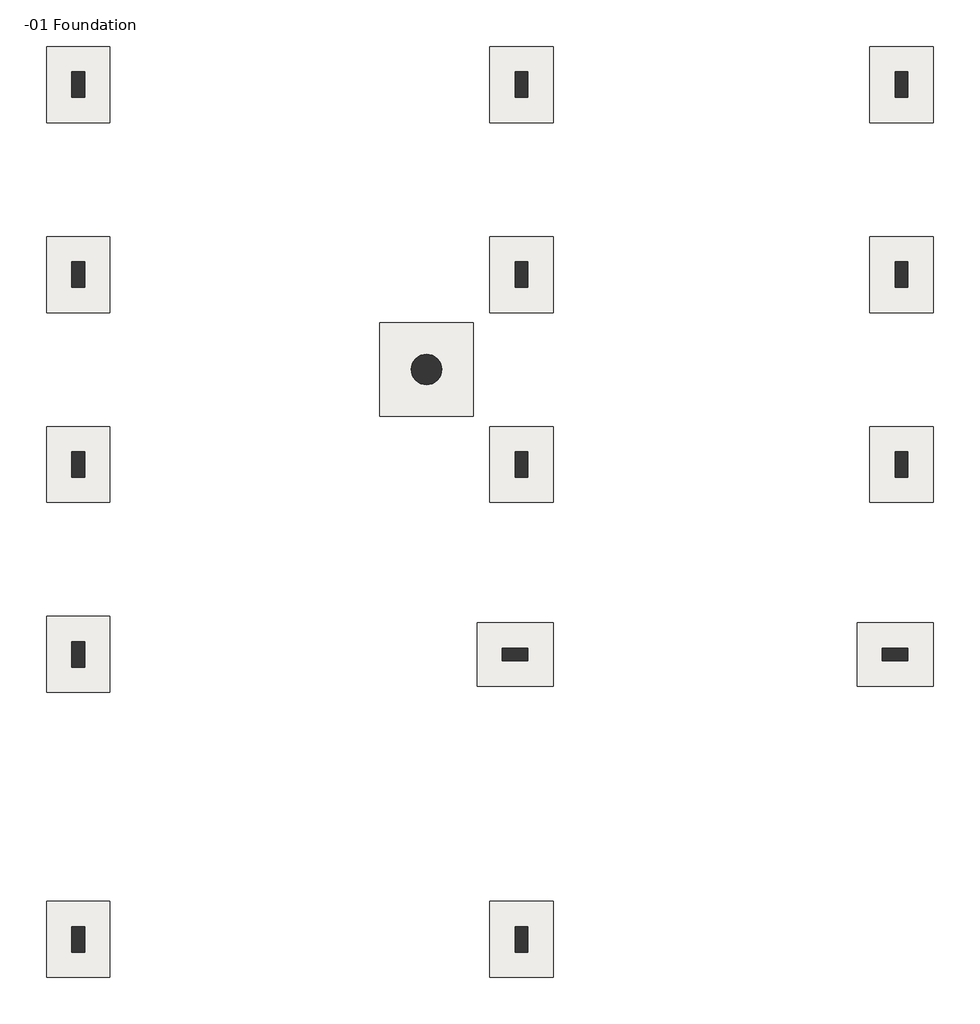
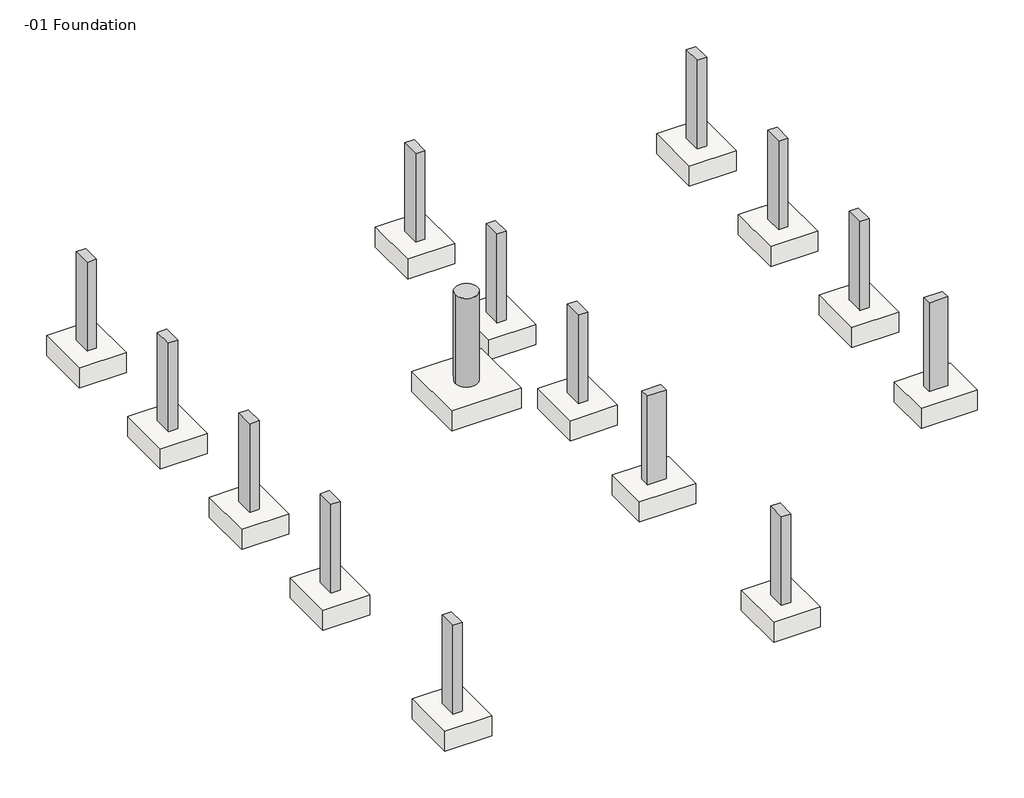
# One storey: 15 columns, 15 slabs.
"""IFC4 building model written with IfcOpenShell, lengths in millimetres."""

import ifcopenshell
import ifcopenshell.guid

model = None  # the IFC model being written
_history = None  # IfcOwnerHistory: only IFC2X3 demands one
_inside = {}  # id of a spatial element -> (the spatial element, [elements in it])
_under = {}  # id of a project, library or spatial element -> (it, [spatial elements below it])
_declared = {}  # id of a project -> (the project, [libraries it declares])
_typed = {}  # id of a type object -> (the type object, [elements of that type])
_made_of = {}  # id of a material, layer set ... -> (it, [elements and type objects made of it])


def new_model(schema):
    """Start an empty IFC model of exactly this schema.

    Asked for "IFC4X3", IfcOpenShell would pick the latest addendum, in which some entities
    have other attributes; the version numbers below select the first issue.
    IFC2X3 requires an IfcOwnerHistory on every rooted entity: one is made here for all.
    """
    global model, _history
    if schema == "IFC4X3":
        model = ifcopenshell.file(schema_version=(4, 3, 0, 0))
    else:
        model = ifcopenshell.file(schema=schema)
    _inside.clear()
    _under.clear()
    _declared.clear()
    _typed.clear()
    _made_of.clear()
    _history = None
    if model.schema == "IFC2X3":
        org = make("IfcOrganization", Name="unknown")
        user = make(
            "IfcPersonAndOrganization",
            ThePerson=make("IfcPerson", FamilyName="unknown"),
            TheOrganization=org,
        )
        app = make(
            "IfcApplication",
            ApplicationDeveloper=org,
            Version="unknown",
            ApplicationFullName="unknown",
            ApplicationIdentifier="unknown",
        )
        _history = make(
            "IfcOwnerHistory",
            OwningUser=user,
            OwningApplication=app,
            ChangeAction="ADDED",
            CreationDate=0,
        )
    return model


def make(cls, **values):
    """One entity of the class cls with the attributes given. An attribute that is None is left unset."""
    return model.create_entity(
        cls, **{name: value for name, value in values.items() if value is not None}
    )


def rooted(cls, **values):
    """An entity with a GlobalId (a new one), such as an element, a storey or a relation."""
    return make(cls, GlobalId=ifcopenshell.guid.new(), OwnerHistory=_history, **values)


def si_unit(unit_type, name, prefix=None):
    """IfcSIUnit, for example si_unit("LENGTHUNIT", "METRE", prefix="MILLI")."""
    return make("IfcSIUnit", UnitType=unit_type, Prefix=prefix, Name=name)


def assignment(units):
    """IfcUnitAssignment: the units of a project."""
    return None if units is None else make("IfcUnitAssignment", Units=units)


def point(xyz):
    """IfcCartesianPoint."""
    return None if xyz is None else make("IfcCartesianPoint", Coordinates=xyz)


def direction(xyz):
    """IfcDirection."""
    return None if xyz is None else make("IfcDirection", DirectionRatios=xyz)


def frame(location, z_axis=None, x_axis=None):
    """IfcAxis2Placement3D, a coordinate frame: its origin and axes. An axis left out is left unset."""
    return make(
        "IfcAxis2Placement3D",
        Location=point(location),
        Axis=direction(z_axis),
        RefDirection=direction(x_axis),
    )


def frame_2d(location, x_axis=None):
    """IfcAxis2Placement2D, a coordinate frame in the plane: its origin and x axis."""
    return make(
        "IfcAxis2Placement2D", Location=point(location), RefDirection=direction(x_axis)
    )


def origin():
    """The frame at (0, 0, 0) with its axes left unset."""
    return frame((0.0, 0.0, 0.0))


def origin_2d():
    """The frame at (0, 0) in the plane with its x axis left unset."""
    return frame_2d((0.0, 0.0))


def place(relative_to, where):
    """IfcLocalPlacement: puts the frame where relative to a parent placement (None: the world)."""
    return make(
        "IfcLocalPlacement", PlacementRelTo=relative_to, RelativePlacement=where
    )


def context(
    kind, dimensions, precision=None, world=None, true_north=None, identifier=None
):
    """IfcGeometricRepresentationContext, for example the 3D "Model" context."""
    return make(
        "IfcGeometricRepresentationContext",
        ContextIdentifier=identifier,
        ContextType=kind,
        CoordinateSpaceDimension=dimensions,
        Precision=precision,
        WorldCoordinateSystem=world,
        TrueNorth=true_north,
    )


def project(units=None, contexts=None):
    """IfcProject with its units and contexts."""
    return rooted(
        "IfcProject",
        Name="project",
        RepresentationContexts=contexts,
        UnitsInContext=assignment(units),
    )


def spatial(cls, under=None, at=None, **own):
    """A site, building, storey or space (cls), placed at a placement, below another one or the project."""
    s = rooted(cls, ObjectPlacement=at, **own)
    if under is not None:
        _under.setdefault(under.id(), (under, []))[1].append(s)
    return s


def polyline(points):
    """IfcPolyline through the points."""
    return make("IfcPolyline", Points=[point(p) for p in points])


def circle_curve(where, radius):
    """IfcCircle in the frame where."""
    return make("IfcCircle", Position=where, Radius=radius)


def trimmed(basis, trim1, trim2, sense, master):
    """IfcTrimmedCurve: the piece of a basis curve between two trims."""
    return make(
        "IfcTrimmedCurve",
        BasisCurve=basis,
        Trim1=trim1,
        Trim2=trim2,
        SenseAgreement=sense,
        MasterRepresentation=master,
    )


def segment(curve, same_sense, transition):
    """IfcCompositeCurveSegment."""
    return make(
        "IfcCompositeCurveSegment",
        Transition=transition,
        SameSense=same_sense,
        ParentCurve=curve,
    )


def composite_curve(segments, self_intersect=None):
    """IfcCompositeCurve: segments joined end to end."""
    return make("IfcCompositeCurve", Segments=segments, SelfIntersect=self_intersect)


def outline(outer, holes=None, kind="AREA"):
    """IfcArbitraryClosedProfileDef: a profile drawn as a closed curve; with holes, ...WithVoids."""
    if holes is None:
        return make("IfcArbitraryClosedProfileDef", ProfileType=kind, OuterCurve=outer)
    return make(
        "IfcArbitraryProfileDefWithVoids",
        ProfileType=kind,
        OuterCurve=outer,
        InnerCurves=holes,
    )


def extrude(swept, where, along, depth):
    """IfcExtrudedAreaSolid: the profile swept, set in the frame where, extruded along a direction by depth."""
    return make(
        "IfcExtrudedAreaSolid",
        SweptArea=swept,
        Position=where,
        ExtrudedDirection=direction(along),
        Depth=depth,
    )


def shape(context_of_items, identifier, shape_type, items):
    """IfcShapeRepresentation: the items that make up one representation, for example the "Body"."""
    return make(
        "IfcShapeRepresentation",
        ContextOfItems=context_of_items,
        RepresentationIdentifier=identifier,
        RepresentationType=shape_type,
        Items=items,
    )


def source(mapping_origin, context_of_items, identifier, shape_type, items):
    """IfcRepresentationMap: a shape defined once, which mapped items show again and again."""
    return make(
        "IfcRepresentationMap",
        MappingOrigin=mapping_origin,
        MappedRepresentation=shape(context_of_items, identifier, shape_type, items),
    )


def transform(
    local_origin,
    x_axis=None,
    y_axis=None,
    z_axis=None,
    scale=None,
    scale2=None,
    scale3=None,
    uniform=True,
):
    """IfcCartesianTransformationOperator3D, or its non-uniform kind. x_axis, y_axis, z_axis: its Axis1, 2, 3."""
    if uniform:
        return make(
            "IfcCartesianTransformationOperator3D",
            Axis1=direction(x_axis),
            Axis2=direction(y_axis),
            LocalOrigin=point(local_origin),
            Scale=scale,
            Axis3=direction(z_axis),
        )
    return make(
        "IfcCartesianTransformationOperator3DnonUniform",
        Axis1=direction(x_axis),
        Axis2=direction(y_axis),
        LocalOrigin=point(local_origin),
        Scale=scale,
        Axis3=direction(z_axis),
        Scale2=scale2,
        Scale3=scale3,
    )


def mapped(mapping_source, mapping_target):
    """IfcMappedItem: shows the shape of a source again, moved by a transform."""
    return make(
        "IfcMappedItem", MappingSource=mapping_source, MappingTarget=mapping_target
    )


def made_of(thing, what):
    """Note that an element or type object is made of a material, layer set ...; save() writes the relation."""
    if what is not None:
        _made_of.setdefault(what.id(), (what, []))[1].append(thing)
    return thing


def element(
    cls,
    number,
    at=None,
    inside=None,
    cuts=None,
    type_object=None,
    material=None,
    context=None,
    identifier="Body",
    shape_type=None,
    held_by="IfcProductDefinitionShape",
    body=None,
    shapes=None,
    **own,
):
    """One element of the class cls, such as IfcWall. Its Tag is "e" and its number.

    at: its placement. inside: the storey or other place that contains it. cuts: it is an
    opening in that element (IfcRelVoidsElement). A single representation is given by context,
    identifier, shape_type and body (its items); several are given by shapes. held_by: the class
    of the entity that holds the representations. save() writes the other relations.
    """
    e = rooted(cls, Tag="e%d" % number, ObjectPlacement=at, **own)
    if body is not None:
        shapes = [shape(context, identifier, shape_type, body)]
    if shapes is not None:
        e.Representation = make(held_by, Representations=shapes)
    if inside is not None:
        _inside.setdefault(inside.id(), (inside, []))[1].append(e)
    if cuts is not None:
        rooted(
            "IfcRelVoidsElement", RelatingBuildingElement=cuts, RelatedOpeningElement=e
        )
    if type_object is not None:
        _typed.setdefault(type_object.id(), (type_object, []))[1].append(e)
    return made_of(e, material)


def aggregate(whole, parts):
    """IfcRelAggregates: a whole, such as a stair, and the parts it consists of."""
    return rooted("IfcRelAggregates", RelatingObject=whole, RelatedObjects=parts)


def save(model, path):
    """Write the relations noted so far, then the file.

    IfcRelAggregates (storeys below a building ...), IfcRelContainedInSpatialStructure (elements
    in a storey), IfcRelDefinesByType, IfcRelAssociatesMaterial and IfcRelDeclares: one each for
    every whole, place, type object, material and project.
    """
    for whole, parts in _under.values():
        aggregate(whole, parts)
    for where, things in _inside.values():
        rooted(
            "IfcRelContainedInSpatialStructure",
            RelatedElements=things,
            RelatingStructure=where,
        )
    for kind, things in _typed.values():
        rooted("IfcRelDefinesByType", RelatedObjects=things, RelatingType=kind)
    for what, things in _made_of.values():
        rooted("IfcRelAssociatesMaterial", RelatedObjects=things, RelatingMaterial=what)
    for by, libraries in _declared.values():
        rooted("IfcRelDeclares", RelatingContext=by, RelatedDefinitions=libraries)
    model.write(path)


def m_concrete_rectangular_column_200_x_400mm_db319ea8(model_context):
    return source(origin(), model_context, "Body", "SweptSolid", [
        extrude(outline(polyline([(100.0, 200.0), (100.0, -200.0), (-100.0, -200.0), (-100.0, 200.0), (100.0, 200.0)])), frame((0.0, 0.0, -2000.0), z_axis=(0.0, 0.0, 1.0), x_axis=(1.0, 0.0, 0.0)), (0.0, 0.0, 1.0), 2000.0),
    ])


def m_concrete_round_column_480mm_4b872f0a(model_context):
    return source(origin(), model_context, "Body", "SweptSolid", [
        extrude(outline(composite_curve([segment(trimmed(circle_curve(origin_2d(), 240.0), [point((-240.0, 0.0))], [point((240.0, 0.0))], False, "CARTESIAN"), True, "CONTINUOUS"), segment(trimmed(circle_curve(origin_2d(), 240.0), [point((240.0, 0.0))], [point((-240.0, 0.0))], False, "CARTESIAN"), True, "CONTINUOUS")], self_intersect=False)), frame((0.0, 0.0, -2000.0), z_axis=(0.0, 0.0, 1.0), x_axis=(1.0, 0.0, 0.0)), (0.0, 0.0, 1.0), 2000.0),
    ])


def m_footing_rectangular_1000_x_1200_x_450mm_b4386320(model_context):
    return source(origin(), model_context, "Body", "SweptSolid", [
        extrude(outline(polyline([(600.0, 500.0), (600.0, -500.0), (-600.0, -500.0), (-600.0, 500.0), (600.0, 500.0)])), frame((0.0, 0.0, -450.0), z_axis=(0.0, 0.0, 1.0), x_axis=(1.0, 0.0, 0.0)), (0.0, 0.0, 1.0), 450.0),
    ])


def m_footing_rectangular_1480_x_1480_x_450mm_d3d8ddf0(model_context):
    return source(origin(), model_context, "Body", "SweptSolid", [
        extrude(outline(polyline([(740.0, 740.0), (740.0, -740.0), (-740.0, -740.0), (-740.0, 740.0), (740.0, 740.0)])), frame((0.0, 0.0, -450.0), z_axis=(0.0, 0.0, 1.0), x_axis=(1.0, 0.0, 0.0)), (0.0, 0.0, 1.0), 450.0),
    ])


model = new_model("IFC4")

# Units and contexts
model_context = context("Model", 3, world=origin())
ifc_project = project(units=[si_unit("LENGTHUNIT", "METRE", prefix="MILLI")], contexts=[model_context])

# Site, building, storey
site = spatial("IfcSite", under=ifc_project)
building = spatial("IfcBuilding", under=site)
storey = spatial("IfcBuildingStorey", under=building, Name="-01 Foundation", Elevation=-2000.0)

# Columns
placement = place(None, origin())
m_concrete_rectangular_column_200_x_400mm_shape = m_concrete_rectangular_column_200_x_400mm_db319ea8(model_context)
element("IfcColumn", 1, ObjectType="M_Concrete-Rectangular-Column : 200 x 400mm", at=placement, inside=storey, context=model_context, shape_type="MappedRepresentation", body=[
    mapped(m_concrete_rectangular_column_200_x_400mm_shape, transform((-8222.5407999, 6137.2898352, 0.0), x_axis=(1.0, 0.0, 0.0), y_axis=(0.0, 1.0, 0.0), z_axis=(0.0, 0.0, 1.0))),
])
element("IfcColumn", 2, ObjectType="M_Concrete-Rectangular-Column : 200 x 400mm", at=placement, inside=storey, context=model_context, shape_type="MappedRepresentation", body=[
    mapped(m_concrete_rectangular_column_200_x_400mm_shape, transform((-8222.5407999, 3137.2898352, 0.0), x_axis=(1.0, 0.0, 0.0), y_axis=(0.0, 1.0, 0.0), z_axis=(0.0, 0.0, 1.0))),
])
element("IfcColumn", 3, ObjectType="M_Concrete-Rectangular-Column : 200 x 400mm", at=placement, inside=storey, context=model_context, shape_type="MappedRepresentation", body=[
    mapped(m_concrete_rectangular_column_200_x_400mm_shape, transform((-8222.5407999, 137.2898352, 0.0), x_axis=(1.0, 0.0, 0.0), y_axis=(0.0, 1.0, 0.0), z_axis=(0.0, 0.0, 1.0))),
])
element("IfcColumn", 4, ObjectType="M_Concrete-Rectangular-Column : 200 x 400mm", at=placement, inside=storey, context=model_context, shape_type="MappedRepresentation", body=[
    mapped(m_concrete_rectangular_column_200_x_400mm_shape, transform((-8222.5407999, -2862.7101648, 0.0), x_axis=(1.0, 0.0, 0.0), y_axis=(0.0, 1.0, 0.0), z_axis=(0.0, 0.0, 1.0))),
])
element("IfcColumn", 5, ObjectType="M_Concrete-Rectangular-Column : 200 x 400mm", at=placement, inside=storey, context=model_context, shape_type="MappedRepresentation", body=[
    mapped(m_concrete_rectangular_column_200_x_400mm_shape, transform((-1222.5407999, 137.2898352, 0.0), x_axis=(1.0, 0.0, 0.0), y_axis=(0.0, 1.0, 0.0), z_axis=(0.0, 0.0, 1.0))),
])
element("IfcColumn", 6, ObjectType="M_Concrete-Rectangular-Column : 200 x 400mm", at=placement, inside=storey, context=model_context, shape_type="MappedRepresentation", body=[
    mapped(m_concrete_rectangular_column_200_x_400mm_shape, transform((-1322.5407999, -2862.7101648, 0.0), x_axis=(0.0, 1.0, 0.0), y_axis=(-1.0, 0.0, 0.0), z_axis=(0.0, 0.0, 1.0))),
])
element("IfcColumn", 7, ObjectType="M_Concrete-Rectangular-Column : 200 x 400mm", at=placement, inside=storey, context=model_context, shape_type="MappedRepresentation", body=[
    mapped(m_concrete_rectangular_column_200_x_400mm_shape, transform((4777.4592001, 6137.2898352, 0.0), x_axis=(1.0, 0.0, 0.0), y_axis=(0.0, 1.0, 0.0), z_axis=(0.0, 0.0, 1.0))),
])
element("IfcColumn", 8, ObjectType="M_Concrete-Rectangular-Column : 200 x 400mm", at=placement, inside=storey, context=model_context, shape_type="MappedRepresentation", body=[
    mapped(m_concrete_rectangular_column_200_x_400mm_shape, transform((-1222.5407999, 6137.2898352, 0.0), x_axis=(1.0, 0.0, 0.0), y_axis=(0.0, 1.0, 0.0), z_axis=(0.0, 0.0, 1.0))),
])
element("IfcColumn", 9, ObjectType="M_Concrete-Rectangular-Column : 200 x 400mm", at=placement, inside=storey, context=model_context, shape_type="MappedRepresentation", body=[
    mapped(m_concrete_rectangular_column_200_x_400mm_shape, transform((-1222.5407999, 3137.2898352, 0.0), x_axis=(1.0, 0.0, 0.0), y_axis=(0.0, 1.0, 0.0), z_axis=(0.0, 0.0, 1.0))),
])
element("IfcColumn", 10, ObjectType="M_Concrete-Rectangular-Column : 200 x 400mm", at=placement, inside=storey, context=model_context, shape_type="MappedRepresentation", body=[
    mapped(m_concrete_rectangular_column_200_x_400mm_shape, transform((4777.4592001, 3137.2898352, 0.0), x_axis=(1.0, 0.0, 0.0), y_axis=(0.0, 1.0, 0.0), z_axis=(0.0, 0.0, 1.0))),
])
element("IfcColumn", 11, ObjectType="M_Concrete-Rectangular-Column : 200 x 400mm", at=placement, inside=storey, context=model_context, shape_type="MappedRepresentation", body=[
    mapped(m_concrete_rectangular_column_200_x_400mm_shape, transform((4677.4592001, -2862.7101648, 0.0), x_axis=(0.0, 1.0, 0.0), y_axis=(-1.0, 0.0, 0.0), z_axis=(0.0, 0.0, 1.0))),
])
element("IfcColumn", 12, ObjectType="M_Concrete-Rectangular-Column : 200 x 400mm", at=placement, inside=storey, context=model_context, shape_type="MappedRepresentation", body=[
    mapped(m_concrete_rectangular_column_200_x_400mm_shape, transform((4777.4592001, 137.2898352, 0.0), x_axis=(-1.0, 0.0, 0.0), y_axis=(0.0, -1.0, 0.0), z_axis=(0.0, 0.0, 1.0))),
])
element("IfcColumn", 13, ObjectType="M_Concrete-Rectangular-Column : 200 x 400mm", at=placement, inside=storey, context=model_context, shape_type="MappedRepresentation", body=[
    mapped(m_concrete_rectangular_column_200_x_400mm_shape, transform((-8222.5407999, -7362.7101648, 0.0), x_axis=(1.0, 0.0, 0.0), y_axis=(0.0, 1.0, 0.0), z_axis=(0.0, 0.0, 1.0))),
])
element("IfcColumn", 14, ObjectType="M_Concrete-Rectangular-Column : 200 x 400mm", at=placement, inside=storey, context=model_context, shape_type="MappedRepresentation", body=[
    mapped(m_concrete_rectangular_column_200_x_400mm_shape, transform((-1222.5407999, -7362.7101648, 0.0), x_axis=(1.0, 0.0, 0.0), y_axis=(0.0, 1.0, 0.0), z_axis=(0.0, 0.0, 1.0))),
])
m_concrete_round_column_480mm_shape = m_concrete_round_column_480mm_4b872f0a(model_context)
element("IfcColumn", 15, ObjectType="M_Concrete-Round-Column : 480mm", at=placement, inside=storey, context=model_context, shape_type="MappedRepresentation", body=[
    mapped(m_concrete_round_column_480mm_shape, transform((-2722.5407999, 1637.2898352, 0.0), x_axis=(1.0, 0.0, 0.0), y_axis=(0.0, 1.0, 0.0), z_axis=(0.0, 0.0, 1.0))),
])

# Slabs
m_footing_rectangular_1000_x_1200_x_450mm_shape = m_footing_rectangular_1000_x_1200_x_450mm_b4386320(model_context)
element("IfcSlab", 16, ObjectType="M_Footing-Rectangular : 1000 x 1200 x 450mm", at=placement, inside=storey, context=model_context, shape_type="MappedRepresentation", body=[
    mapped(m_footing_rectangular_1000_x_1200_x_450mm_shape, transform((-8222.5407999, 6137.2898352, -2000.0), x_axis=(0.0, 1.0, 0.0), y_axis=(-1.0, 0.0, 0.0), z_axis=(0.0, 0.0, 1.0))),
])
element("IfcSlab", 17, ObjectType="M_Footing-Rectangular : 1000 x 1200 x 450mm", at=placement, inside=storey, context=model_context, shape_type="MappedRepresentation", body=[
    mapped(m_footing_rectangular_1000_x_1200_x_450mm_shape, transform((-8222.5407999, 3137.2898352, -2000.0), x_axis=(0.0, 1.0, 0.0), y_axis=(-1.0, 0.0, 0.0), z_axis=(0.0, 0.0, 1.0))),
])
element("IfcSlab", 18, ObjectType="M_Footing-Rectangular : 1000 x 1200 x 450mm", at=placement, inside=storey, context=model_context, shape_type="MappedRepresentation", body=[
    mapped(m_footing_rectangular_1000_x_1200_x_450mm_shape, transform((-8222.5407999, 137.2898352, -2000.0), x_axis=(0.0, 1.0, 0.0), y_axis=(-1.0, 0.0, 0.0), z_axis=(0.0, 0.0, 1.0))),
])
element("IfcSlab", 19, ObjectType="M_Footing-Rectangular : 1000 x 1200 x 450mm", at=placement, inside=storey, context=model_context, shape_type="MappedRepresentation", body=[
    mapped(m_footing_rectangular_1000_x_1200_x_450mm_shape, transform((4677.4592001, -2862.7101648, -2000.0), x_axis=(-1.0, 0.0, 0.0), y_axis=(0.0, -1.0, 0.0), z_axis=(0.0, 0.0, 1.0))),
])
element("IfcSlab", 20, ObjectType="M_Footing-Rectangular : 1000 x 1200 x 450mm", at=placement, inside=storey, context=model_context, shape_type="MappedRepresentation", body=[
    mapped(m_footing_rectangular_1000_x_1200_x_450mm_shape, transform((-8222.5407999, -2862.7101648, -2000.0), x_axis=(0.0, 1.0, 0.0), y_axis=(-1.0, 0.0, 0.0), z_axis=(0.0, 0.0, 1.0))),
])
element("IfcSlab", 21, ObjectType="M_Footing-Rectangular : 1000 x 1200 x 450mm", at=placement, inside=storey, context=model_context, shape_type="MappedRepresentation", body=[
    mapped(m_footing_rectangular_1000_x_1200_x_450mm_shape, transform((-8222.5407999, -7362.7101648, -2000.0), x_axis=(0.0, 1.0, 0.0), y_axis=(-1.0, 0.0, 0.0), z_axis=(0.0, 0.0, 1.0))),
])
element("IfcSlab", 22, ObjectType="M_Footing-Rectangular : 1000 x 1200 x 450mm", at=placement, inside=storey, context=model_context, shape_type="MappedRepresentation", body=[
    mapped(m_footing_rectangular_1000_x_1200_x_450mm_shape, transform((-1222.5407999, -7362.7101648, -2000.0), x_axis=(0.0, 1.0, 0.0), y_axis=(-1.0, 0.0, 0.0), z_axis=(0.0, 0.0, 1.0))),
])
element("IfcSlab", 23, ObjectType="M_Footing-Rectangular : 1000 x 1200 x 450mm", at=placement, inside=storey, context=model_context, shape_type="MappedRepresentation", body=[
    mapped(m_footing_rectangular_1000_x_1200_x_450mm_shape, transform((-1322.5407999, -2862.7101648, -2000.0), x_axis=(-1.0, 0.0, 0.0), y_axis=(0.0, -1.0, 0.0), z_axis=(0.0, 0.0, 1.0))),
])
element("IfcSlab", 24, ObjectType="M_Footing-Rectangular : 1000 x 1200 x 450mm", at=placement, inside=storey, context=model_context, shape_type="MappedRepresentation", body=[
    mapped(m_footing_rectangular_1000_x_1200_x_450mm_shape, transform((-1222.5407999, 137.2898352, -2000.0), x_axis=(0.0, -1.0, 0.0), y_axis=(1.0, 0.0, 0.0), z_axis=(0.0, 0.0, 1.0))),
])
element("IfcSlab", 25, ObjectType="M_Footing-Rectangular : 1000 x 1200 x 450mm", at=placement, inside=storey, context=model_context, shape_type="MappedRepresentation", body=[
    mapped(m_footing_rectangular_1000_x_1200_x_450mm_shape, transform((-1222.5407999, 3137.2898352, -2000.0), x_axis=(0.0, -1.0, 0.0), y_axis=(1.0, 0.0, 0.0), z_axis=(0.0, 0.0, 1.0))),
])
element("IfcSlab", 26, ObjectType="M_Footing-Rectangular : 1000 x 1200 x 450mm", at=placement, inside=storey, context=model_context, shape_type="MappedRepresentation", body=[
    mapped(m_footing_rectangular_1000_x_1200_x_450mm_shape, transform((-1222.5407999, 6137.2898352, -2000.0), x_axis=(0.0, -1.0, 0.0), y_axis=(1.0, 0.0, 0.0), z_axis=(0.0, 0.0, 1.0))),
])
element("IfcSlab", 27, ObjectType="M_Footing-Rectangular : 1000 x 1200 x 450mm", at=placement, inside=storey, context=model_context, shape_type="MappedRepresentation", body=[
    mapped(m_footing_rectangular_1000_x_1200_x_450mm_shape, transform((4777.4592001, 6137.2898352, -2000.0), x_axis=(0.0, -1.0, 0.0), y_axis=(1.0, 0.0, 0.0), z_axis=(0.0, 0.0, 1.0))),
])
element("IfcSlab", 28, ObjectType="M_Footing-Rectangular : 1000 x 1200 x 450mm", at=placement, inside=storey, context=model_context, shape_type="MappedRepresentation", body=[
    mapped(m_footing_rectangular_1000_x_1200_x_450mm_shape, transform((4777.4592001, 3137.2898352, -2000.0), x_axis=(0.0, -1.0, 0.0), y_axis=(1.0, 0.0, 0.0), z_axis=(0.0, 0.0, 1.0))),
])
element("IfcSlab", 29, ObjectType="M_Footing-Rectangular : 1000 x 1200 x 450mm", at=placement, inside=storey, context=model_context, shape_type="MappedRepresentation", body=[
    mapped(m_footing_rectangular_1000_x_1200_x_450mm_shape, transform((4777.4592001, 137.2898352, -2000.0), x_axis=(0.0, -1.0, 0.0), y_axis=(1.0, 0.0, 0.0), z_axis=(0.0, 0.0, 1.0))),
])
m_footing_rectangular_1480_x_1480_x_450mm_shape = m_footing_rectangular_1480_x_1480_x_450mm_d3d8ddf0(model_context)
element("IfcSlab", 30, ObjectType="M_Footing-Rectangular : 1480 x 1480 x 450mm", at=placement, inside=storey, context=model_context, shape_type="MappedRepresentation", body=[
    mapped(m_footing_rectangular_1480_x_1480_x_450mm_shape, transform((-2722.5407999, 1637.2898352, -2000.0), x_axis=(1.0, 0.0, 0.0), y_axis=(0.0, 1.0, 0.0), z_axis=(0.0, 0.0, 1.0))),
])

save(model, "model.ifc")
